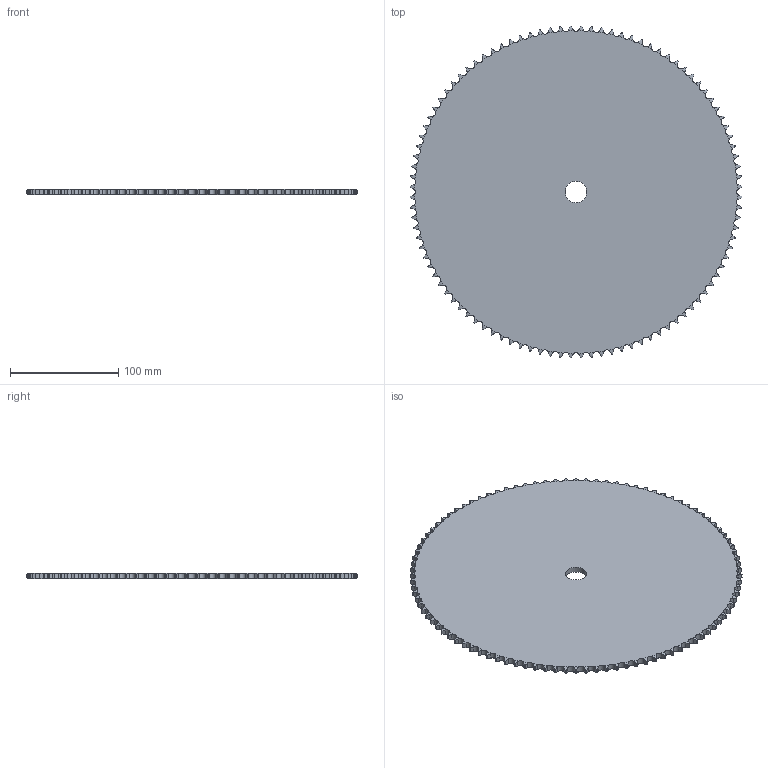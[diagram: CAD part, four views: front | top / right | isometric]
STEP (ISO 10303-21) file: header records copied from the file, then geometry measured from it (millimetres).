
FILE_DESCRIPTION((''),'2;1');
FILE_NAME('500-101-0100_PRT','2021-02-12T',('Brieden'),('Brieden'),'PRO/ENGINEER BY PARAMETRIC TECHNOLOGY CORPORATION, 2010160','PRO/ENGINEER BY PARAMETRIC TECHNOLOGY CORPORATION, 2010160','');
FILE_SCHEMA(('AUTOMOTIVE_DESIGN { 1 0 10303 214 1 1 1 1 }'));
Length unit declared in the file: millimetre
Products named in the file (1): 500-101-0100_PRT
Bounding box: 306.44 x 306.44 x 5.3 mm (x, y, z)
Volume: 373433.6 mm3; surface area: 148572.7 mm2
Topology: 1 solids, 1 shells, 604 faces, 1806 edges, 1204 vertices
Faces by surface type: cylinder 402, torus 200, plane 2
Entity records: 29574 total; most frequent: CARTESIAN_POINT 8805, ORIENTED_EDGE 3612, DIRECTION 2818, PRESENTATION_STYLE_ASSIGNMENT 1807, STYLED_ITEM 1807, CURVE_STYLE 1806, EDGE_CURVE 1806, AXIS2_PLACEMENT_3D 1208
